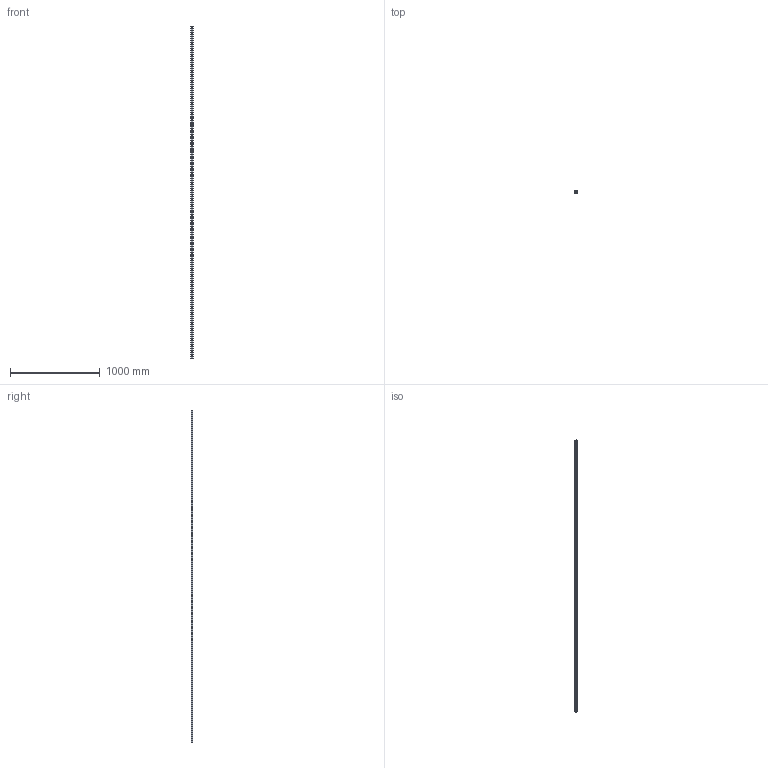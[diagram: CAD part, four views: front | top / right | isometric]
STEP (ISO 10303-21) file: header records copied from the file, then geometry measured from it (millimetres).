
FILE_DESCRIPTION (( 'STEP AP203' ), '1' );
FILE_NAME ('L1016.BL25-3700.step', '2019-06-12T12:16:21', ( '' ), ( '' ), 'SwSTEP 2.0', 'SolidWorks 2017', '' );
FILE_SCHEMA (( 'CONFIG_CONTROL_DESIGN' ));
Length unit declared in the file: millimetre
Products named in the file (1): L1016.BL25-3700
Bounding box: 23 x 19.2 x 3700 mm (x, y, z)
Volume: 1363599.9 mm3; surface area: 349849.8 mm2
Topology: 1 solids, 1 shells, 336 faces, 816 edges, 544 vertices
Faces by surface type: cylinder 252, plane 84
Entity records: 10449 total; most frequent: DIRECTION 1994, CARTESIAN_POINT 1697, ORIENTED_EDGE 1632, AXIS2_PLACEMENT_3D 841, EDGE_CURVE 816, VERTEX_POINT 544, EDGE_LOOP 522, CIRCLE 504
